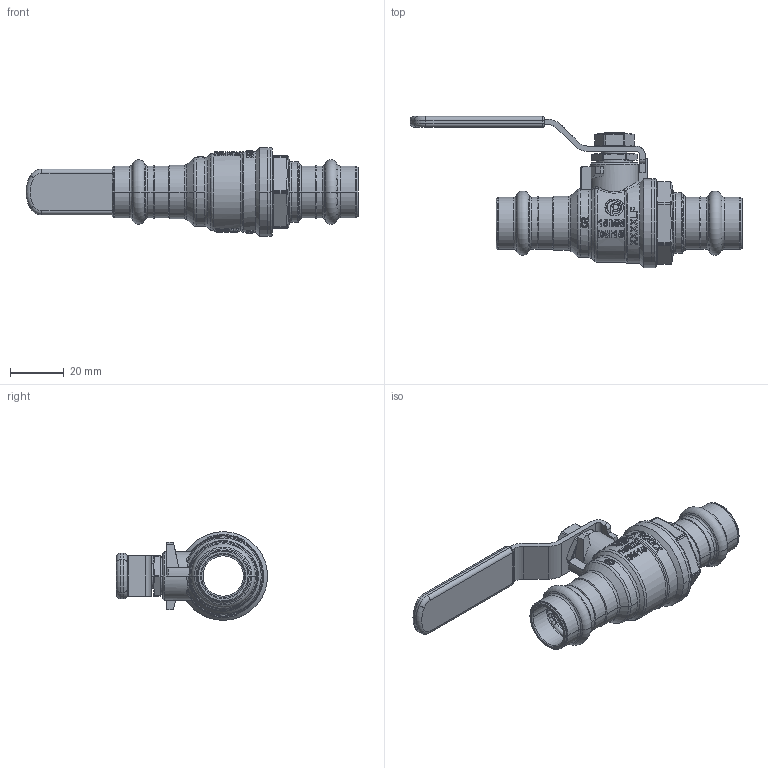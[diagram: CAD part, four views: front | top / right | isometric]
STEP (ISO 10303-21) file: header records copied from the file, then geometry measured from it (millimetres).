
FILE_DESCRIPTION((''),'2;1');
FILE_NAME('JP100G_1-2_LDP_ASM','2021-07-13T15:33:38',('Sergio.Dandrea'),(''),'CREO PARAMETRIC BY PTC INC, 2021063','CREO PARAMETRIC BY PTC INC, 2021063','');
FILE_SCHEMA(('CONFIG_CONTROL_DESIGN'));
Length unit declared in the file: millimetre
Products named in the file (15): 20225; SEDE_PTFE_F15; 09095; 09100; 87191; AN_PTFE_SF_15_AF0; OR_105_6_5X1_45_AF0; OR_105_6_5X1_45_AF1; 20224; 87159; GRIP_PVC_75; LEVA_75MM_GIALLA_ASM; 20181; 01034; JP100G_1-2_LDP_ASM
Assembly tree (16 placements, depth 3):
  JP100G_1-2_LDP_ASM
    20225
    SEDE_PTFE_F15  x2
    09095
    09100
    87191
    AN_PTFE_SF_15_AF0
    OR_105_6_5X1_45_AF0
    OR_105_6_5X1_45_AF1
    20224
    LEVA_75MM_GIALLA_ASM
      87159
      GRIP_PVC_75
    20181  x2
    01034
Bounding box: 123.5 x 56.2 x 33 mm (x, y, z)
Volume: 31426.7 mm3; surface area: 32973.2 mm2
Topology: 15 solids, 23 shells, 1460 faces, 3614 edges, 2240 vertices
Faces by surface type: bspline 596, plane 236, cylinder 225, extrusion 156, torus 118, cone 109, revolution 16, sphere 4
Entity records: 69025 total; most frequent: CARTESIAN_POINT 40857, ORIENTED_EDGE 6572, DIRECTION 4305, EDGE_CURVE 3309, VERTEX_POINT 2075, B_SPLINE_CURVE_WITH_KNOTS 1643, AXIS2_PLACEMENT_3D 1580, EDGE_LOOP 1404
